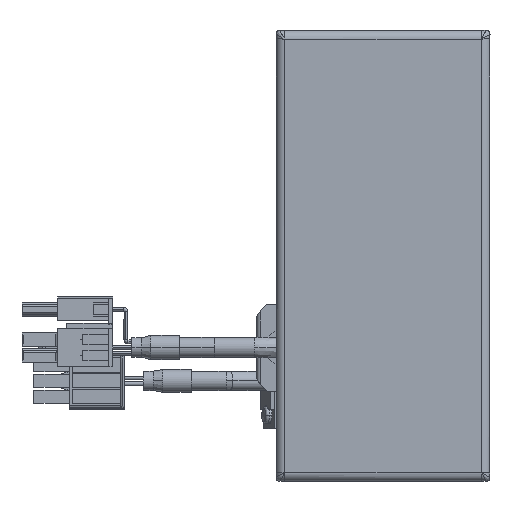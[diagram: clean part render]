
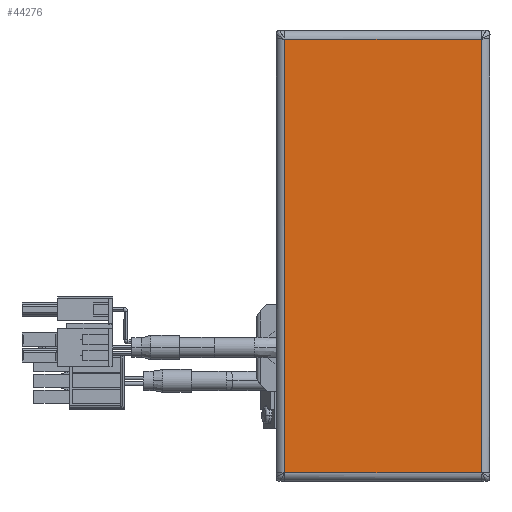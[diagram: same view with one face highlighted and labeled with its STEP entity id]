
A CAD part, top view. The second image highlights one B-rep face of the part: STEP entity #44276.
In plain terms, the highlighted planar face has unit normal (0, 0, 1) as drawn and (0, 0, -1) by its records, which use the part's own axes.
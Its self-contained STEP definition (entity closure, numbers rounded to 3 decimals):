
#235 = VERTEX_POINT ( 'NONE', #39717 ) ;
#423 = PLANE ( 'NONE',  #38806 ) ;
#3003 = LINE ( 'NONE', #37531, #27541 ) ;
#4491 = CARTESIAN_POINT ( 'NONE',  ( -56.763, -25.793, -1.5 ) ) ;
#8183 = CARTESIAN_POINT ( 'NONE',  ( 56.793, -25.763, -1.5 ) ) ;
#9852 = DIRECTION ( 'NONE',  ( 0., -1., 0. ) ) ;
#10370 = LINE ( 'NONE', #8183, #58119 ) ;
#10380 = ORIENTED_EDGE ( 'NONE', *, *, #44280, .T. ) ;
#12600 = ORIENTED_EDGE ( 'NONE', *, *, #59748, .T. ) ;
#13912 = LINE ( 'NONE', #4491, #50767 ) ;
#14333 = CARTESIAN_POINT ( 'NONE',  ( 0., 0., -1.5 ) ) ;
#14836 = CARTESIAN_POINT ( 'NONE',  ( -56.763, 25.763, -1.5 ) ) ;
#18745 = VERTEX_POINT ( 'NONE', #40933 ) ;
#23904 = EDGE_CURVE ( 'NONE', #41165, #18745, #31179, .T. ) ;
#23959 = CARTESIAN_POINT ( 'NONE',  ( 56.763, -25.763, -1.5 ) ) ;
#27517 = ORIENTED_EDGE ( 'NONE', *, *, #31274, .T. ) ;
#27541 = VECTOR ( 'NONE', #9852, 1000. ) ;
#28254 = DIRECTION ( 'NONE',  ( -1., 0., 0. ) ) ;
#31179 = LINE ( 'NONE', #46430, #54353 ) ;
#31274 = EDGE_CURVE ( 'NONE', #36228, #235, #10370, .T. ) ;
#34720 = EDGE_LOOP ( 'NONE', ( #10380, #27517, #12600, #44181 ) ) ;
#36228 = VERTEX_POINT ( 'NONE', #23959 ) ;
#36726 = DIRECTION ( 'NONE',  ( 0., 1., 0. ) ) ;
#37531 = CARTESIAN_POINT ( 'NONE',  ( 56.763, 25.793, -1.5 ) ) ;
#38806 = AXIS2_PLACEMENT_3D ( 'NONE', #14333, #55971, #28254 ) ;
#39717 = CARTESIAN_POINT ( 'NONE',  ( -56.763, -25.763, -1.5 ) ) ;
#40933 = CARTESIAN_POINT ( 'NONE',  ( 56.763, 25.763, -1.5 ) ) ;
#41165 = VERTEX_POINT ( 'NONE', #14836 ) ;
#44181 = ORIENTED_EDGE ( 'NONE', *, *, #23904, .T. ) ;
#44276 = ADVANCED_FACE ( 'NONE', ( #52145 ), #423, .T. ) ;
#44280 = EDGE_CURVE ( 'NONE', #18745, #36228, #3003, .T. ) ;
#45136 = DIRECTION ( 'NONE',  ( -1., 0., 0. ) ) ;
#46430 = CARTESIAN_POINT ( 'NONE',  ( -56.793, 25.763, -1.5 ) ) ;
#50767 = VECTOR ( 'NONE', #36726, 1000. ) ;
#51058 = DIRECTION ( 'NONE',  ( 1., 0., 0. ) ) ;
#52145 = FACE_OUTER_BOUND ( 'NONE', #34720, .T. ) ;
#54353 = VECTOR ( 'NONE', #51058, 1000. ) ;
#55971 = DIRECTION ( 'NONE',  ( 0., 0., -1. ) ) ;
#58119 = VECTOR ( 'NONE', #45136, 1000. ) ;
#59748 = EDGE_CURVE ( 'NONE', #235, #41165, #13912, .T. ) ;
